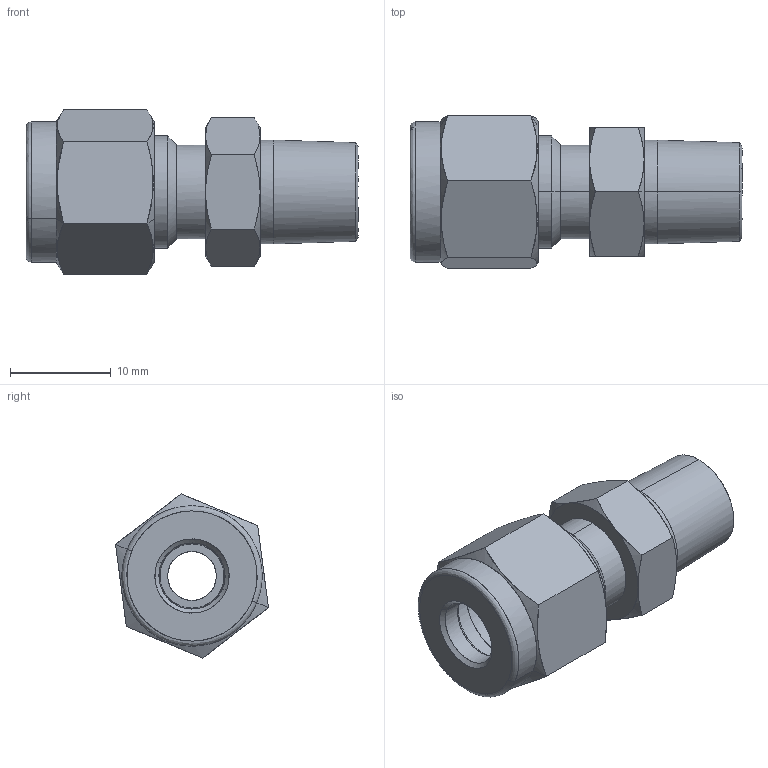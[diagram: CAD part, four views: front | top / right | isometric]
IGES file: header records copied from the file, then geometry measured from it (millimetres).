
Start section: Comment
Global section: file name: SMC4-2N.igs; native system:  By UGS Corp.; preprocessor: XPlus GENERIC/IGES 3.0; author: Author; organization: Title; date: 20100113.150032; units: millimetre
Bounding box: 32.89 x 15.16 x 16.26 mm (x, y, z)
Surface area: 2878.8 mm2 (no closed solid volume)
Topology: 0 solids, 0 shells, 93 faces, 532 edges, 527 vertices
Faces by surface type: bspline 93
